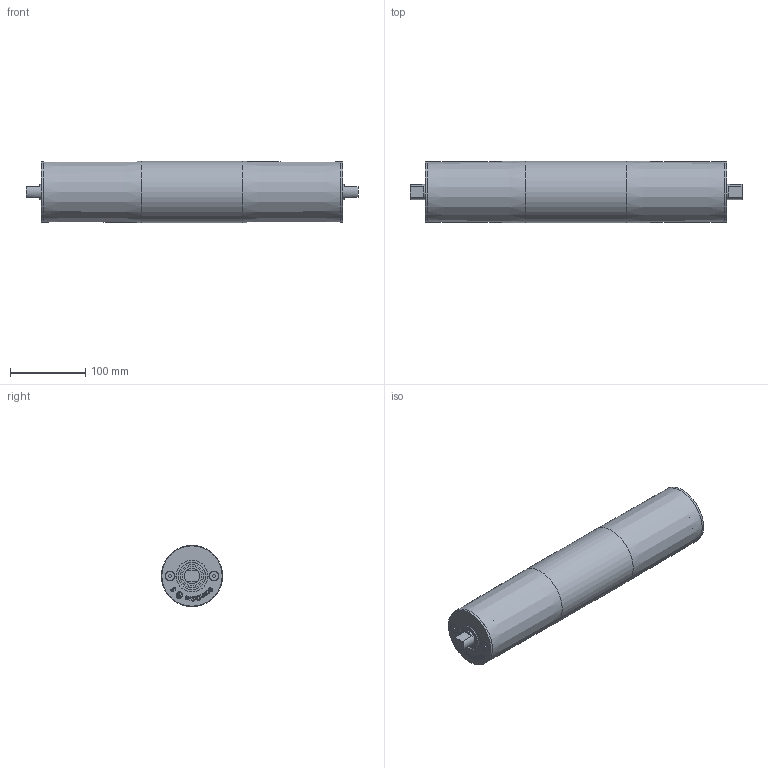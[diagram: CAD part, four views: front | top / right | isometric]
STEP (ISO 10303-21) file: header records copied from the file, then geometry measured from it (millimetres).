
FILE_DESCRIPTION(/* description */ (''),/* implementation_level */ '2;1');
FILE_NAME(/* name */ 'C:\WF_Ellegaard\Designs\00 standart komponenter\Tromlemotor\Scandrive S\Ø80\Scandrive S Ø80 RL400.stp',/* time_stamp */ '2017-04-19T18:32:07+02:00',/* author */ ('guh'),/* organization */ (''),/* preprocessor_version */ 'ST-DEVELOPER v15.6',/* originating_system */ 'Autodesk Inventor 2015',/* authorisation */ '');
FILE_SCHEMA (('AUTOMOTIVE_DESIGN { 1 0 10303 214 3 1 1 }'));
Length unit declared in the file: millimetre
Products named in the file (1): Scandrive S Ø80 RL400
Bounding box: 441 x 81.5 x 81.5 mm (x, y, z)
Volume: 353530.7 mm3; surface area: 233260.4 mm2
Topology: 1 solids, 2 shells, 484 faces, 1252 edges, 834 vertices
Faces by surface type: plane 260, bspline 196, cylinder 22, cone 4, torus 2
Full cylindrical faces by diameter (mm): 12 x2, 13 x2, 20 x2, 26 x2, 26.02 x2, 41.98 x2, 42 x2, 77 x2, 78 x1, 80 x2, 80.014 x2, 81.5 x1
Entity records: 15597 total; most frequent: CARTESIAN_POINT 5087, ORIENTED_EDGE 2444, DIRECTION 1468, EDGE_CURVE 1222, VERTEX_POINT 832, LINE 770, VECTOR 770, EDGE_LOOP 574
